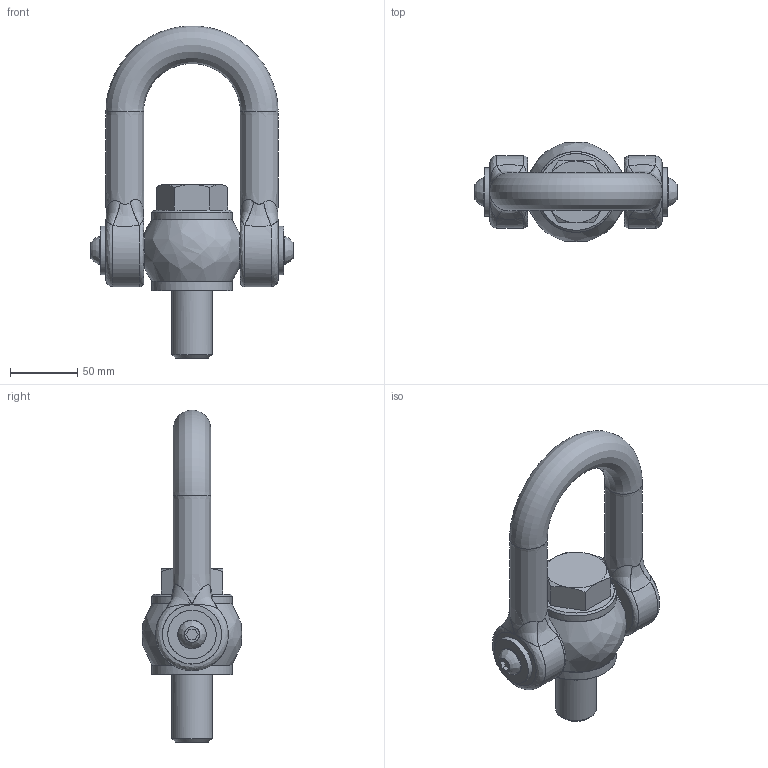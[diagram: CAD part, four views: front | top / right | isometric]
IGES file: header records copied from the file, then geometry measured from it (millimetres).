
Global section: file name: E:\UnigraphicsGraphicData\MISUMI_MOLD-PARTS\NX\3d_sleb30_00881_r00.igs; native system: NX V5.0; preprocessor: UGS NX IGES V5.0; author: MISUMI; date: 20101115.183350; units: millimetre
Bounding box: 150.4 x 73.75 x 246.96 mm (x, y, z)
Surface area: 85715.9 mm2 (no closed solid volume)
Topology: 0 solids, 0 shells, 81 faces, 820 edges, 789 vertices
Faces by surface type: bspline 81
